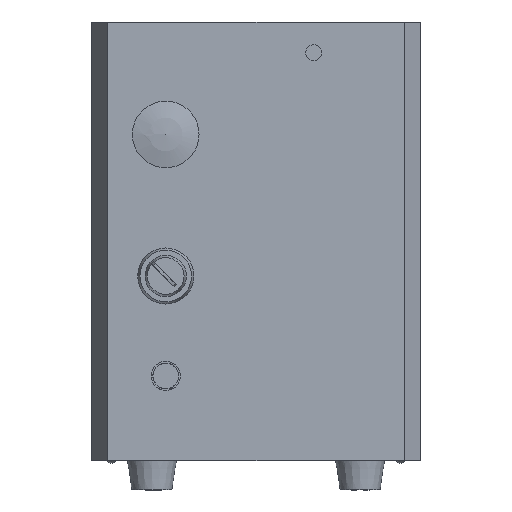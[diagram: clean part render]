
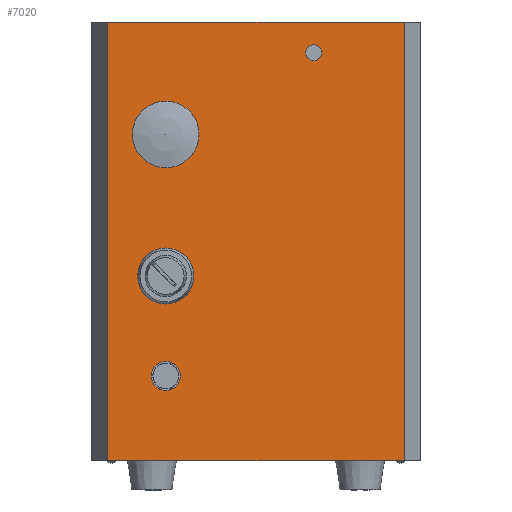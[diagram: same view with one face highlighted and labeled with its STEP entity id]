
A CAD part, front view. The second image highlights one B-rep face of the part: STEP entity #7020.
In plain terms, the highlighted planar face has unit normal (0, -1, 0).
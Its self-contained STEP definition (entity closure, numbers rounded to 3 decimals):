
#52=FACE_BOUND('',#1187,.T.);
#53=FACE_BOUND('',#1188,.T.);
#54=FACE_BOUND('',#1189,.T.);
#55=FACE_BOUND('',#1190,.T.);
#423=CIRCLE('',#7502,16.833);
#424=CIRCLE('',#7503,4.8);
#425=CIRCLE('',#7504,14.464);
#426=CIRCLE('',#7505,8.757);
#800=FACE_OUTER_BOUND('',#1186,.T.);
#1186=EDGE_LOOP('',(#5536,#5537,#5538,#5539));
#1187=EDGE_LOOP('',(#5540));
#1188=EDGE_LOOP('',(#5541));
#1189=EDGE_LOOP('',(#5542));
#1190=EDGE_LOOP('',(#5543));
#1853=LINE('',#10757,#2620);
#1890=LINE('',#10841,#2657);
#1891=LINE('',#10843,#2658);
#1892=LINE('',#10844,#2659);
#2620=VECTOR('',#8743,10.);
#2657=VECTOR('',#8816,10.);
#2658=VECTOR('',#8817,10.);
#2659=VECTOR('',#8818,10.);
#3310=VERTEX_POINT('',#10754);
#3311=VERTEX_POINT('',#10756);
#3340=VERTEX_POINT('',#10840);
#3341=VERTEX_POINT('',#10842);
#3342=VERTEX_POINT('',#10845);
#3343=VERTEX_POINT('',#10847);
#3344=VERTEX_POINT('',#10849);
#3345=VERTEX_POINT('',#10851);
#4121=EDGE_CURVE('',#3310,#3311,#1853,.T.);
#4163=EDGE_CURVE('',#3340,#3310,#1890,.T.);
#4164=EDGE_CURVE('',#3340,#3341,#1891,.T.);
#4165=EDGE_CURVE('',#3341,#3311,#1892,.T.);
#4166=EDGE_CURVE('',#3342,#3342,#423,.T.);
#4167=EDGE_CURVE('',#3343,#3343,#424,.T.);
#4168=EDGE_CURVE('',#3344,#3344,#425,.T.);
#4169=EDGE_CURVE('',#3345,#3345,#426,.T.);
#5536=ORIENTED_EDGE('',*,*,#4121,.F.);
#5537=ORIENTED_EDGE('',*,*,#4163,.F.);
#5538=ORIENTED_EDGE('',*,*,#4164,.T.);
#5539=ORIENTED_EDGE('',*,*,#4165,.T.);
#5540=ORIENTED_EDGE('',*,*,#4166,.T.);
#5541=ORIENTED_EDGE('',*,*,#4167,.T.);
#5542=ORIENTED_EDGE('',*,*,#4168,.T.);
#5543=ORIENTED_EDGE('',*,*,#4169,.T.);
#6698=PLANE('',#7501);
#7020=ADVANCED_FACE('',(#800,#52,#53,#54,#55),#6698,.T.);
#7501=AXIS2_PLACEMENT_3D('',#10839,#8814,#8815);
#7502=AXIS2_PLACEMENT_3D('',#10846,#8819,#8820);
#7503=AXIS2_PLACEMENT_3D('',#10848,#8821,#8822);
#7504=AXIS2_PLACEMENT_3D('',#10850,#8823,#8824);
#7505=AXIS2_PLACEMENT_3D('',#10852,#8825,#8826);
#8743=DIRECTION('',(1.,0.,0.));
#8814=DIRECTION('center_axis',(0.,-1.,0.));
#8815=DIRECTION('ref_axis',(1.,0.,0.));
#8816=DIRECTION('',(0.,0.,1.));
#8817=DIRECTION('',(1.,0.,0.));
#8818=DIRECTION('',(0.,0.,1.));
#8819=DIRECTION('center_axis',(0.,1.,0.));
#8820=DIRECTION('ref_axis',(1.,0.,0.));
#8821=DIRECTION('center_axis',(0.,1.,0.));
#8822=DIRECTION('ref_axis',(-1.,0.,0.));
#8823=DIRECTION('center_axis',(0.,1.,0.));
#8824=DIRECTION('ref_axis',(0.,0.,
1.));
#8825=DIRECTION('center_axis',(0.,1.,0.));
#8826=DIRECTION('ref_axis',(-1.,0.,0.));
#10754=CARTESIAN_POINT('',(6.7,-26.,262.));
#10756=CARTESIAN_POINT('',(184.7,-26.,262.));
#10757=CARTESIAN_POINT('',(46.2,-26.,262.));
#10839=CARTESIAN_POINT('Origin',(95.7,-26.,130.35));
#10840=CARTESIAN_POINT('',(6.7,-26.,-1.3));
#10841=CARTESIAN_POINT('',(6.7,-26.,64.525));
#10842=CARTESIAN_POINT('',(184.7,-26.,-1.3));
#10843=CARTESIAN_POINT('',(46.2,-26.,-1.3));
#10844=CARTESIAN_POINT('',(184.7,-26.,64.525));
#10845=CARTESIAN_POINT('',(24.667,-26.,109.5));
#10846=CARTESIAN_POINT('Origin',(41.5,-26.,109.5));
#10847=CARTESIAN_POINT('',(135.2,-26.,243.5));
#10848=CARTESIAN_POINT('Origin',(130.4,-26.,243.5));
#10849=CARTESIAN_POINT('',(41.5,-26.,180.036));
#10850=CARTESIAN_POINT('Origin',(41.5,-26.,194.5));
#10851=CARTESIAN_POINT('',(50.257,-26.,49.5));
#10852=CARTESIAN_POINT('Origin',(41.5,-26.,49.5));
